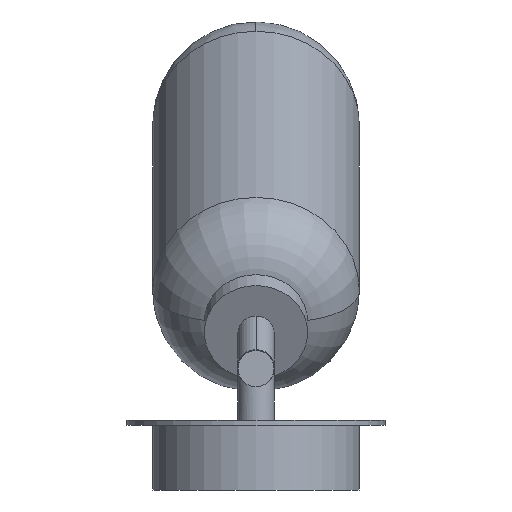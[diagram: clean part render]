
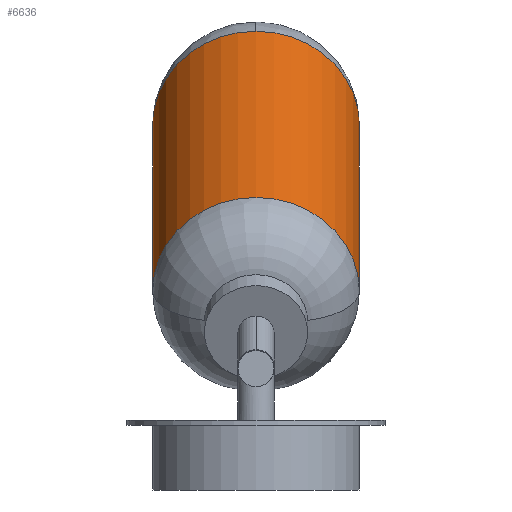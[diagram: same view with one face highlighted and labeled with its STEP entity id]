
A CAD part, front view. The second image highlights one B-rep face of the part: STEP entity #6636.
In plain terms, the highlighted cylindrical face has radius 40 mm (diameter 80 mm), a partial arc.
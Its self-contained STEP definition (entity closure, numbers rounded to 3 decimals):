
#107 = DIRECTION ( 'NONE',  ( 0., 0.906, 0.423 ) ) ;
#643 = CARTESIAN_POINT ( 'NONE',  ( -72.934, 252.592, 228.787 ) ) ;
#1050 = ORIENTED_EDGE ( 'NONE', *, *, #4957, .F. ) ;
#1209 = CARTESIAN_POINT ( 'NONE',  ( -32.934, 288.845, 245.691 ) ) ;
#1215 = AXIS2_PLACEMENT_3D ( 'NONE', #8942, #5467, #5373 ) ;
#1355 = ORIENTED_EDGE ( 'NONE', *, *, #4081, .T. ) ;
#1675 = VERTEX_POINT ( 'NONE', #643 ) ;
#1757 = CARTESIAN_POINT ( 'NONE',  ( -32.934, 235.688, 265.039 ) ) ;
#1861 = AXIS2_PLACEMENT_3D ( 'NONE', #1209, #1998, #4300 ) ;
#1881 = EDGE_CURVE ( 'NONE', #8042, #7579, #6205, .T. ) ;
#1998 = DIRECTION ( 'NONE',  ( 0., 0.906, 0.423 ) ) ;
#2036 = CARTESIAN_POINT ( 'NONE',  ( -72.934, 114.664, 164.469 ) ) ;
#2189 = VECTOR ( 'NONE', #2789, 1000. ) ;
#2434 = DIRECTION ( 'NONE',  ( 0., 0.906, 0.423 ) ) ;
#2495 = CARTESIAN_POINT ( 'NONE',  ( -32.934, 252.592, 228.787 ) ) ;
#2789 = DIRECTION ( 'NONE',  ( 0., 0.906, 0.423 ) ) ;
#3237 = DIRECTION ( 'NONE',  ( 1., 0., 0. ) ) ;
#3411 = CARTESIAN_POINT ( 'NONE',  ( 7.066, 114.664, 164.469 ) ) ;
#3437 = CYLINDRICAL_SURFACE ( 'NONE', #1861, 40. ) ;
#3648 = ORIENTED_EDGE ( 'NONE', *, *, #6951, .F. ) ;
#3982 = FACE_OUTER_BOUND ( 'NONE', #4567, .T. ) ;
#4004 = ORIENTED_EDGE ( 'NONE', *, *, #8046, .F. ) ;
#4081 = EDGE_CURVE ( 'NONE', #7622, #8042, #9263, .T. ) ;
#4094 = DIRECTION ( 'NONE',  ( 0., 0.906, 0.423 ) ) ;
#4300 = DIRECTION ( 'NONE',  ( 1., 0., 0. ) ) ;
#4567 = EDGE_LOOP ( 'NONE', ( #4004, #1355, #6113, #1050, #3648 ) ) ;
#4906 = CARTESIAN_POINT ( 'NONE',  ( 7.066, 252.592, 228.787 ) ) ;
#4957 = EDGE_CURVE ( 'NONE', #5234, #7579, #8320, .T. ) ;
#5043 = CARTESIAN_POINT ( 'NONE',  ( -32.934, 252.592, 228.787 ) ) ;
#5108 = DIRECTION ( 'NONE',  ( 1., 0., 0. ) ) ;
#5234 = VERTEX_POINT ( 'NONE', #1757 ) ;
#5373 = DIRECTION ( 'NONE',  ( 1., 0., 0. ) ) ;
#5467 = DIRECTION ( 'NONE',  ( 0., 0.906, 0.423 ) ) ;
#5630 = VECTOR ( 'NONE', #4094, 1000. ) ;
#6113 = ORIENTED_EDGE ( 'NONE', *, *, #1881, .T. ) ;
#6205 = LINE ( 'NONE', #8461, #5630 ) ;
#6487 = CARTESIAN_POINT ( 'NONE',  ( -72.934, 288.845, 245.691 ) ) ;
#6636 = ADVANCED_FACE ( 'NONE', ( #3982 ), #3437, .T. ) ;
#6904 = LINE ( 'NONE', #6487, #2189 ) ;
#6951 = EDGE_CURVE ( 'NONE', #1675, #5234, #8365, .T. ) ;
#7579 = VERTEX_POINT ( 'NONE', #4906 ) ;
#7622 = VERTEX_POINT ( 'NONE', #2036 ) ;
#7652 = AXIS2_PLACEMENT_3D ( 'NONE', #5043, #107, #5108 ) ;
#7784 = AXIS2_PLACEMENT_3D ( 'NONE', #2495, #2434, #3237 ) ;
#8042 = VERTEX_POINT ( 'NONE', #3411 ) ;
#8046 = EDGE_CURVE ( 'NONE', #7622, #1675, #6904, .T. ) ;
#8320 = CIRCLE ( 'NONE', #7652, 40. ) ;
#8365 = CIRCLE ( 'NONE', #7784, 40. ) ;
#8461 = CARTESIAN_POINT ( 'NONE',  ( 7.066, 288.845, 245.691 ) ) ;
#8942 = CARTESIAN_POINT ( 'NONE',  ( -32.934, 114.664, 164.469 ) ) ;
#9263 = CIRCLE ( 'NONE', #1215, 40. ) ;
